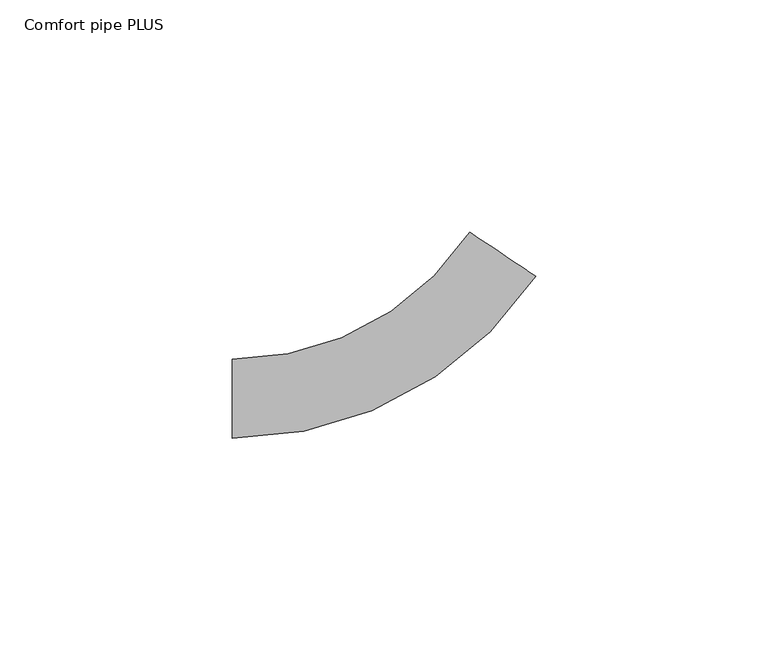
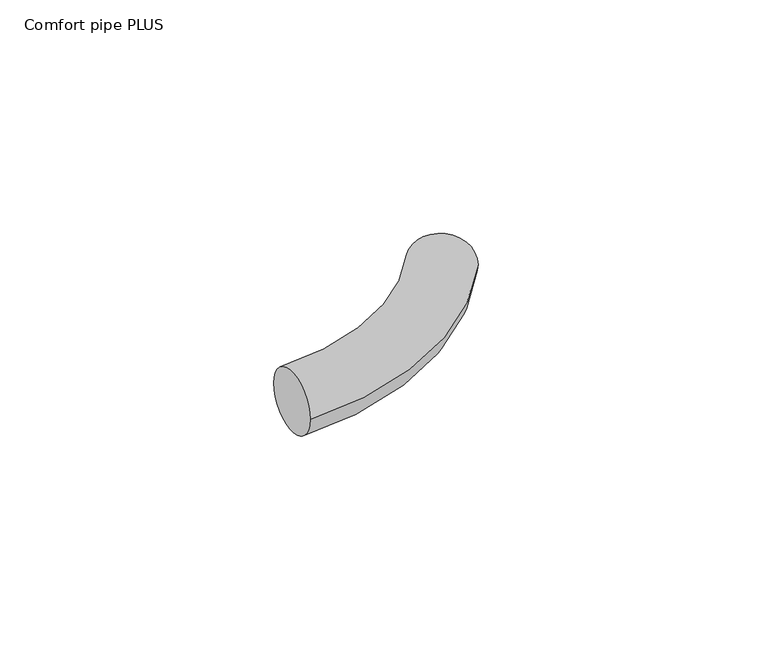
"""IFC4 building model written with IfcOpenShell, lengths in millimetres: pipe fitting geometry, 400_5-_Uponor_curved_Elbow : Comfort pipe PLUS."""

from ifc_helpers import new_model, si_unit, point, frame, origin, place, context, project, spatial, circle_curve, ellipse_curve, trimmed, source, transform, mapped, element, save
from ifc_brep_helpers import plane_surface, revolved_surface, advanced_brep


def comfort_pipe_plus_9fd0e97e(model_context):
    return source(origin(), model_context, "Body", "AdvancedBrep", [
        advanced_brep(
        [(-37.4233564, -8.5, 0.0), (-37.4233564, 8.5, 0.0), (27.8543502, 26.3987269, 0.0), (13.7177768, 35.8410408, 0.0)],
        [
            (0, 1, circle_curve(frame((-37.4233564, 0.0, 0.0), z_axis=(-1.0, 0.0, 0.0), x_axis=(0.0, 1.0, 0.0)), 8.5)),
            (1, 0, circle_curve(frame((-37.4233564, 0.0, 0.0), z_axis=(-1.0, 0.0, 0.0), x_axis=(0.0, 1.0, 0.0)), 8.5)),
            (2, 3, circle_curve(frame((20.7860635, 31.1198838, 0.0), z_axis=(0.5554302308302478, 0.8315631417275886, 0.0), x_axis=(-0.8315631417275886, 0.5554302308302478, 0.0)), 8.5)),
            (3, 2, circle_curve(frame((20.7860635, 31.1198838, 0.0), z_axis=(0.5554302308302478, 0.8315631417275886, 0.0), x_axis=(-0.8315631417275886, 0.5554302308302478, 0.0)), 8.5)),
            (3, 1, circle_curve(frame((-37.4233564, 70.0, 0.0), z_axis=(0.0, 0.0, -1.0), x_axis=(0.0, -1.0, 0.0)), 61.5)),
            (0, 2, circle_curve(frame((-37.4233564, 70.0, 0.0), z_axis=(0.0, 0.0, 1.0), x_axis=(0.0, -1.0, 0.0)), 78.5)),
        ],
        [
            plane_surface(frame((-37.4233564, 0.0, 0.0), z_axis=(-1.0, 0.0, 0.0), x_axis=(0.0, 0.0, 1.0))),
            plane_surface(frame((20.7860635, 31.1198838, 0.0), z_axis=(0.5554302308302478, 0.8315631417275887, 0.0), x_axis=(0.0, 0.0, 1.0))),
            revolved_surface(trimmed(ellipse_curve(frame((-37.4233564, 0.0, 0.0), z_axis=(-1.0, 0.0, 0.0), x_axis=(0.0, 1.0, 0.0)), 8.5, 8.5), [point((-37.4233564, -8.5, 0.0))], [point((-37.4233564, 8.5, 0.0))], True, "CARTESIAN"), (-37.4233564, 70.0, 0.0), (0.0, 0.0, 1.0)),
            revolved_surface(trimmed(ellipse_curve(frame((-37.4233564, 0.0, 0.0), z_axis=(-1.0, 0.0, 0.0), x_axis=(0.0, 1.0, 0.0)), 8.5, 8.5), [point((-37.4233564, 8.5, 0.0))], [point((-37.4233564, -8.5, 0.0))], True, "CARTESIAN"), (-37.4233564, 70.0, 0.0), (0.0, 0.0, 1.0)),
        ],
        [
            (0, [[1, 2]]),
            (1, [[3, 4]]),
            (2, [[5, -1, 6, -4]]),
            (3, [[-6, -2, -5, -3]]),
        ],
    ),
    ])


if __name__ == "__main__":
    model = new_model("IFC4")
    model_context = context("Model", 3, world=origin())
    ifc_project = project(units=[si_unit("LENGTHUNIT", "METRE", prefix="MILLI")], contexts=[model_context])
    site = spatial("IfcSite", under=ifc_project)
    building = spatial("IfcBuilding", under=site)
    placement = place(None, origin())
    comfort_pipe_plus_shape = comfort_pipe_plus_9fd0e97e(model_context)
    element("IfcPipeFitting", 1, ObjectType="400_5-_Uponor_curved_Elbow : Comfort pipe PLUS", at=placement, inside=building, context=model_context, shape_type="MappedRepresentation", body=[
        mapped(comfort_pipe_plus_shape, transform((0.0, 0.0, 0.0), x_axis=(1.0, 0.0, 0.0), y_axis=(0.0, 1.0, 0.0), z_axis=(0.0, 0.0, 1.0))),
    ])
    save(model, "model.ifc")
